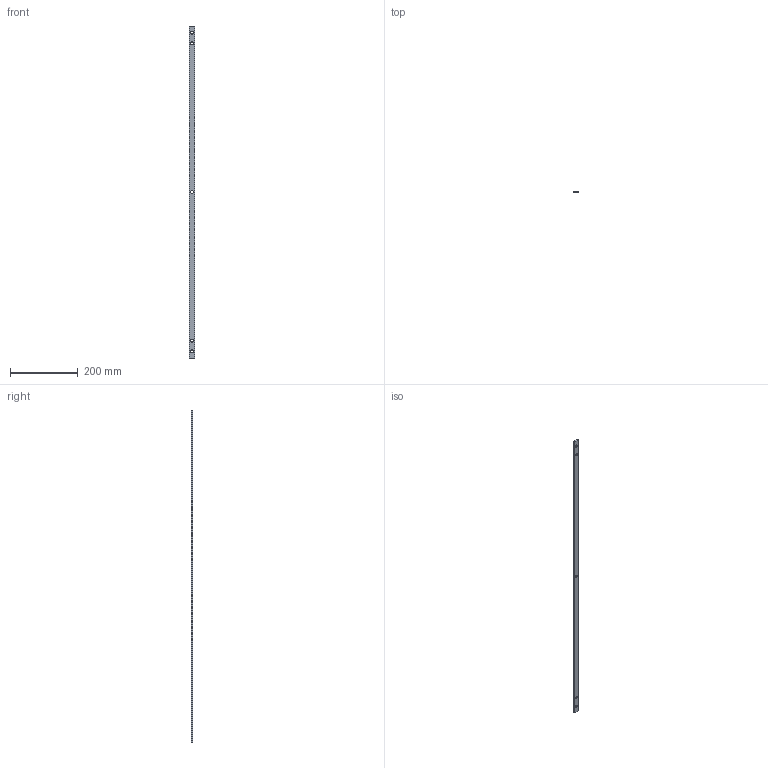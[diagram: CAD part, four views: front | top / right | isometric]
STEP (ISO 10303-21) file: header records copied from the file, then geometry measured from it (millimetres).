
FILE_DESCRIPTION( ( 'Unknown' ), '1' );
FILE_NAME( 'Q:/ACCESSORIES/WEB DRAWINGS/STEP/CBB38.stp', 'Unknown', ( 'Unknown' ), ( 'Unknown' ), 'XStep 1.0', 'Unknown', ' ' );
FILE_SCHEMA( ( 'CONFIG_CONTROL_DESIGN' ) );
Length unit declared in the file: millimetre
Products named in the file (1): 1
Bounding box: 15.88 x 3.17 x 977.9 mm (x, y, z)
Volume: 48506.2 mm3; surface area: 37260.8 mm2
Topology: 1 solids, 1 shells, 11 faces, 32 edges, 23 vertices
Faces by surface type: plane 6, cylinder 5
Full cylindrical faces by diameter (mm): 7.925 x5
Entity records: 370 total; most frequent: DIRECTION 56, CARTESIAN_POINT 52, ORIENTED_EDGE 44, EDGE_LOOP 26, AXIS2_PLACEMENT_3D 22, EDGE_CURVE 22, VERTEX_POINT 18, FACE_OUTER_BOUND 16
